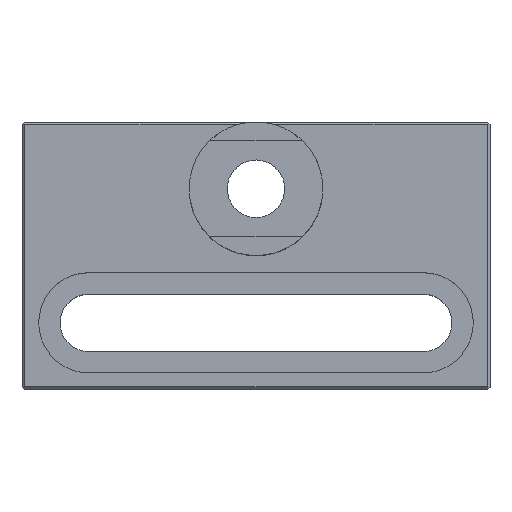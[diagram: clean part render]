
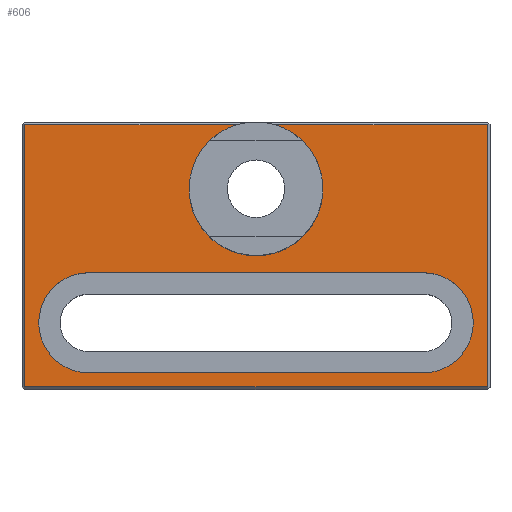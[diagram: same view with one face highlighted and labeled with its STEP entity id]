
A CAD part, top view. The second image highlights one B-rep face of the part: STEP entity #606.
In plain terms, the highlighted planar face has unit normal (0, 0, 1).
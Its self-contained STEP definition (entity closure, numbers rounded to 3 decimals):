
#26=FACE_BOUND('',#99,.T.);
#33=CIRCLE('',#668,5.);
#34=CIRCLE('',#669,5.);
#35=CIRCLE('',#670,3.75);
#36=CIRCLE('',#671,3.75);
#63=FACE_OUTER_BOUND('',#98,.T.);
#98=EDGE_LOOP('',(#472,#473,#474,#475,#476,#477,#478));
#99=EDGE_LOOP('',(#479,#480,#481,#482));
#129=LINE('',#897,#194);
#143=LINE('',#931,#208);
#148=LINE('',#942,#213);
#152=LINE('',#951,#217);
#160=LINE('',#967,#225);
#161=LINE('',#975,#226);
#162=LINE('',#979,#227);
#194=VECTOR('',#716,10.);
#208=VECTOR('',#744,10.);
#213=VECTOR('',#753,10.);
#217=VECTOR('',#763,10.);
#225=VECTOR('',#779,10.);
#226=VECTOR('',#788,10.);
#227=VECTOR('',#791,10.);
#258=VERTEX_POINT('',#894);
#259=VERTEX_POINT('',#896);
#272=VERTEX_POINT('',#930);
#276=VERTEX_POINT('',#940);
#278=VERTEX_POINT('',#950);
#282=VERTEX_POINT('',#966);
#283=VERTEX_POINT('',#970);
#284=VERTEX_POINT('',#973);
#285=VERTEX_POINT('',#974);
#286=VERTEX_POINT('',#976);
#287=VERTEX_POINT('',#978);
#316=EDGE_CURVE('',#258,#259,#129,.T.);
#333=EDGE_CURVE('',#259,#272,#143,.T.);
#339=EDGE_CURVE('',#276,#258,#148,.T.);
#343=EDGE_CURVE('',#272,#278,#152,.T.);
#351=EDGE_CURVE('',#278,#282,#160,.T.);
#353=EDGE_CURVE('',#276,#283,#33,.T.);
#354=EDGE_CURVE('',#283,#282,#34,.T.);
#355=EDGE_CURVE('',#284,#285,#161,.T.);
#356=EDGE_CURVE('',#285,#286,#35,.T.);
#357=EDGE_CURVE('',#286,#287,#162,.T.);
#358=EDGE_CURVE('',#287,#284,#36,.T.);
#472=ORIENTED_EDGE('',*,*,#316,.F.);
#473=ORIENTED_EDGE('',*,*,#339,.F.);
#474=ORIENTED_EDGE('',*,*,#353,.T.);
#475=ORIENTED_EDGE('',*,*,#354,.T.);
#476=ORIENTED_EDGE('',*,*,#351,.F.);
#477=ORIENTED_EDGE('',*,*,#343,.F.);
#478=ORIENTED_EDGE('',*,*,#333,.F.);
#479=ORIENTED_EDGE('',*,*,#355,.T.);
#480=ORIENTED_EDGE('',*,*,#356,.T.);
#481=ORIENTED_EDGE('',*,*,#357,.T.);
#482=ORIENTED_EDGE('',*,*,#358,.T.);
#580=PLANE('',#667);
#606=ADVANCED_FACE('',(#63,#26),#580,.T.);
#667=AXIS2_PLACEMENT_3D('',#969,#782,#783);
#668=AXIS2_PLACEMENT_3D('',#971,#784,#785);
#669=AXIS2_PLACEMENT_3D('',#972,#786,#787);
#670=AXIS2_PLACEMENT_3D('',#977,#789,#790);
#671=AXIS2_PLACEMENT_3D('',#980,#792,#793);
#716=DIRECTION('',(0.,-1.,0.));
#744=DIRECTION('',(-1.,0.,0.));
#753=DIRECTION('',(1.,0.,0.));
#763=DIRECTION('',(0.,1.,0.));
#779=DIRECTION('',(1.,0.,0.));
#782=DIRECTION('center_axis',(0.,0.,1.));
#783=DIRECTION('ref_axis',(1.,0.,0.));
#784=DIRECTION('center_axis',(0.,0.,-1.));
#785=DIRECTION('ref_axis',(-1.,0.,0.));
#786=DIRECTION('center_axis',(0.,0.,-1.));
#787=DIRECTION('ref_axis',(-1.,0.,0.));
#788=DIRECTION('',(-1.,0.,0.));
#789=DIRECTION('center_axis',(0.,0.,-1.));
#790=DIRECTION('ref_axis',(-1.,0.,0.));
#791=DIRECTION('',(1.,0.,0.));
#792=DIRECTION('center_axis',(0.,0.,-1.));
#793=DIRECTION('ref_axis',(-1.,0.,0.));
#894=CARTESIAN_POINT('',(17.3,14.8,10.));
#896=CARTESIAN_POINT('',(17.3,-4.8,10.));
#897=CARTESIAN_POINT('',(17.3,0.,10.));
#930=CARTESIAN_POINT('',(-17.3,-4.8,10.));
#931=CARTESIAN_POINT('',(-8.75,-4.8,10.));
#940=CARTESIAN_POINT('',(1.4,14.8,10.));
#942=CARTESIAN_POINT('',(8.75,14.8,10.));
#950=CARTESIAN_POINT('',(-17.3,14.8,10.));
#951=CARTESIAN_POINT('',(-17.3,10.,10.));
#966=CARTESIAN_POINT('',(-1.4,14.8,10.));
#967=CARTESIAN_POINT('',(8.75,14.8,10.));
#969=CARTESIAN_POINT('Origin',(0.,5.,10.));
#970=CARTESIAN_POINT('',(-5.,10.,10.));
#971=CARTESIAN_POINT('Origin',(0.,10.,10.));
#972=CARTESIAN_POINT('Origin',(0.,10.,10.));
#973=CARTESIAN_POINT('',(12.5,-3.75,10.));
#974=CARTESIAN_POINT('',(-12.5,-3.75,10.));
#975=CARTESIAN_POINT('',(12.5,-3.75,10.));
#976=CARTESIAN_POINT('',(-12.5,3.75,10.));
#977=CARTESIAN_POINT('Origin',(-12.5,0.,10.));
#978=CARTESIAN_POINT('',(12.5,3.75,10.));
#979=CARTESIAN_POINT('',(-12.5,3.75,10.));
#980=CARTESIAN_POINT('Origin',(12.5,0.,10.));
